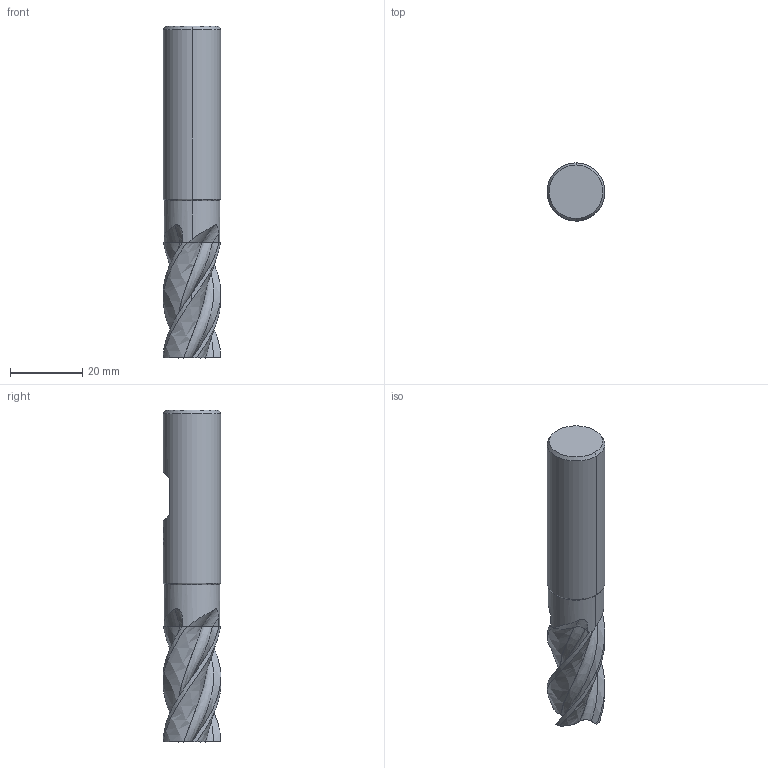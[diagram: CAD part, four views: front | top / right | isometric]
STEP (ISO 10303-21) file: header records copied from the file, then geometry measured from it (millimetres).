
FILE_DESCRIPTION(('no description'),'unknown implementation level');
FILE_NAME('solidBoF0dnDvW9dCyOmEoRxwJ4nMfMI_1.STP',' ',('CIMSOURCE GmbH'),('CADClick - KiM GmbH - www.kimweb.de'),'unknown preprocess','ACIS','unknown authorization');
FILE_SCHEMA(('automotive_design'));
Length unit declared in the file: millimetre
Products named in the file (2): NOCUT; CUT
Bounding box: 16 x 16 x 92 mm (x, y, z)
Volume: 15071 mm3; surface area: 6841.8 mm2
Topology: 2 solids, 2 shells, 121 faces, 342 edges, 224 vertices
Faces by surface type: bspline 48, plane 27, cone 18, cylinder 16, revolution 12
Entity records: 22360 total; most frequent: CARTESIAN_POINT 15863, STYLED_ITEM 689, PRESENTATION_STYLE_ASSIGNMENT 689, COLOUR_RGB 689, ORIENTED_EDGE 684, DIRECTION 356, EDGE_CURVE 342, CURVE_STYLE 342
